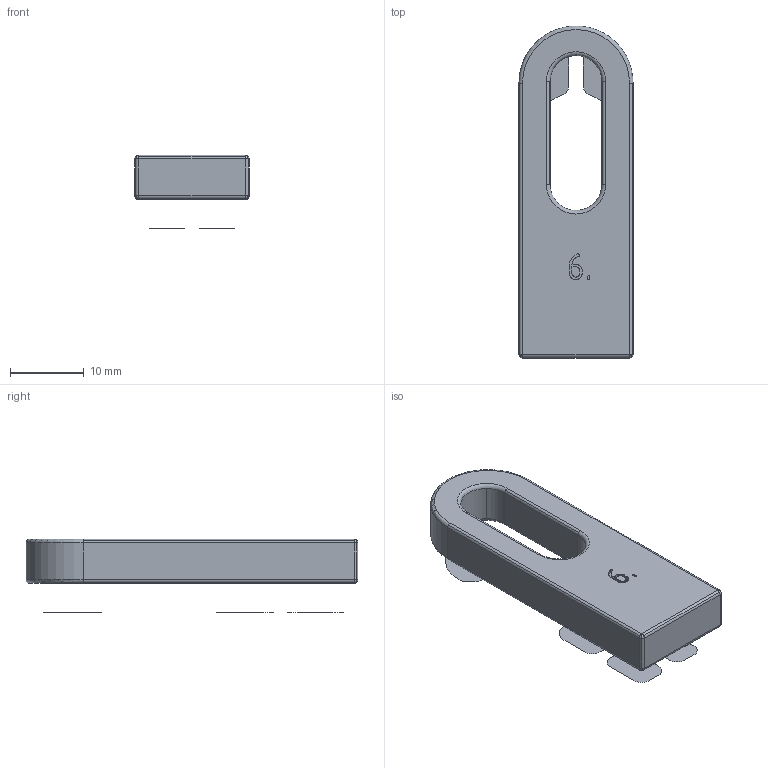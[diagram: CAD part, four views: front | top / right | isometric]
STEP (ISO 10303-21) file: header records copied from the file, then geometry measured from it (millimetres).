
FILE_DESCRIPTION(('STEP AP214'),'1');
FILE_NAME('BF-20240124-cad-shim1_6mm_light-02cbr.stp','2024-01-24T17:51:35',(' '),(' '),'Spatial InterOp 3D',' ',' ');
FILE_SCHEMA(('AUTOMOTIVE_DESIGN { 1 0 10303 214 1 1 1 1 }'));
Length unit declared in the file: metre
Products named in the file (1): Volumenkörper
Bounding box: 15.5 x 44.99 x 10 mm (x, y, z)
Volume: 2663.8 mm3; surface area: 2499 mm2
Topology: 1 solids, 7 shells, 260 faces, 691 edges, 440 vertices
Faces by surface type: cylinder 120, plane 46, extrusion 44, torus 42, sphere 8
Entity records: 8334 total; most frequent: CARTESIAN_POINT 1799, DIRECTION 1393, ORIENTED_EDGE 1314, EDGE_CURVE 683, AXIS2_PLACEMENT_3D 534, VERTEX_POINT 438, VECTOR 325, CIRCLE 314
